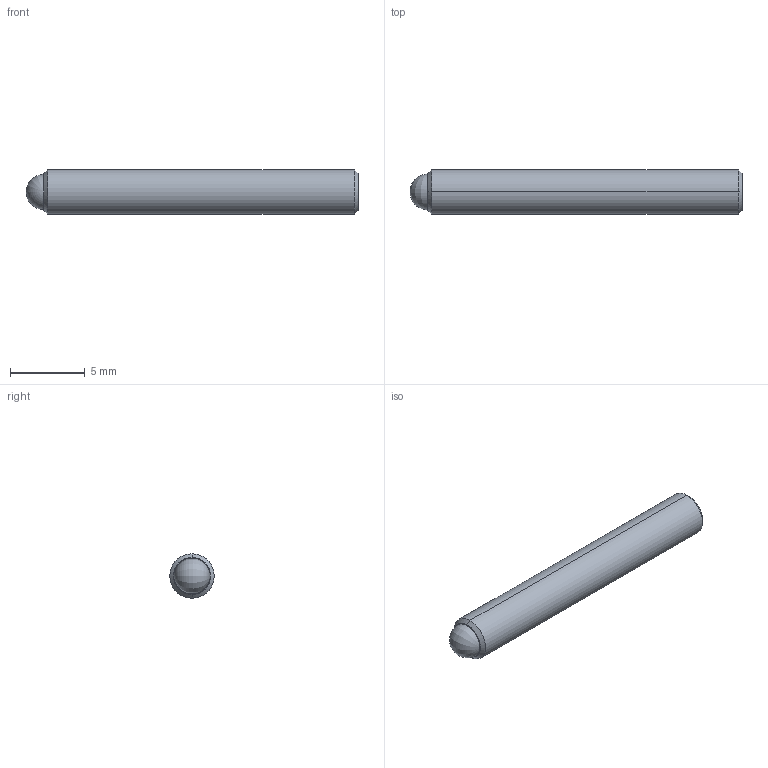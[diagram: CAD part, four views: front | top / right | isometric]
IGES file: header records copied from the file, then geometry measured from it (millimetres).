
Start section: SolidWorks IGES file using analytic representation for surfaces
Global section: file name: C:\Users\workpc\Desktop\KMA Solidworks\TS6-80 Series\TS6-80 SLDPRT\TS6-80-875.IGS; native system: SolidWorks 2013; preprocessor: SolidWorks 2013; author: workpc; date: 140728.153150; units: inch
Bounding box: 22.22 x 2.97 x 2.97 mm (x, y, z)
Surface area: 249.7 mm2 (no closed solid volume)
Topology: 0 solids, 0 shells, 20 faces, 204 edges, 200 vertices
Faces by surface type: revolution 10, bspline 10
